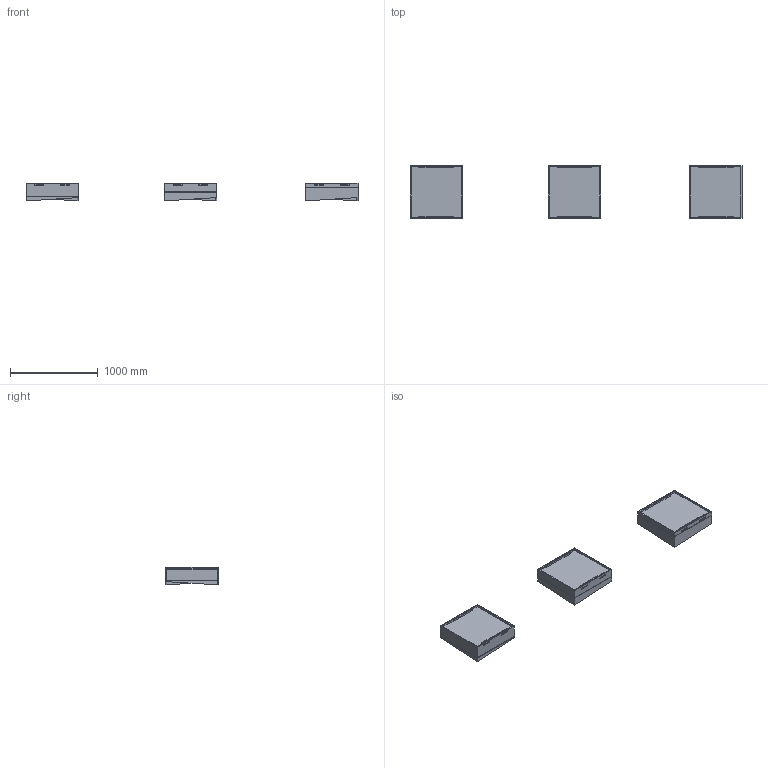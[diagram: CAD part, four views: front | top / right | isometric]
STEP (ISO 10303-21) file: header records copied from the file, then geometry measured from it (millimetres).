
FILE_DESCRIPTION(/* description */ (''),/* implementation_level */ '2;1');
FILE_NAME(/* name */ 'Coffa_Profile_8',/* time_stamp */ '2026-07-21T14:45:14-05:00',/* author */ (''),/* organization */ (''),/* preprocessor_version */ 'ST-DEVELOPER v19.2',/* originating_system */ 'Rhino 8.32',/* authorisation */ '');
FILE_SCHEMA (('CONFIG_CONTROL_DESIGN'));
Length unit declared in the file: inch
Products named in the file (1): Document
Bounding box: 3786.87 x 596.9 x 203.2 mm (x, y, z)
Volume: 27846746.7 mm3; surface area: 5128751.3 mm2
Topology: 21 solids, 21 shells, 282 faces, 732 edges, 492 vertices
Faces by surface type: plane 282
Entity records: 7997 total; most frequent: CARTESIAN_POINT 2745, ORIENTED_EDGE 1440, B_SPLINE_CURVE_WITH_KNOTS 732, EDGE_CURVE 720, VERTEX_POINT 480, EDGE_LOOP 306, DIRECTION 288, AXIS2_PLACEMENT_3D 285
